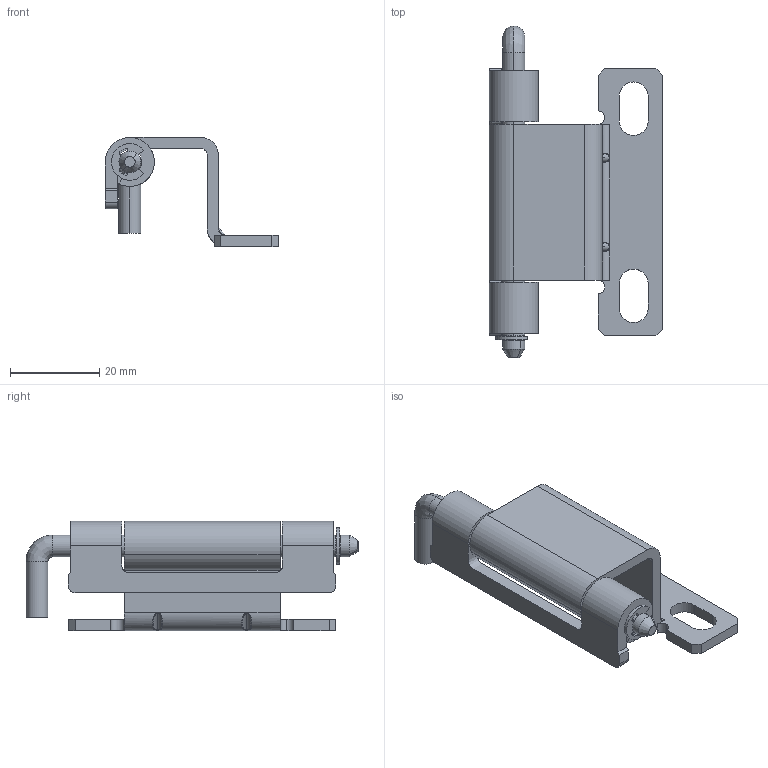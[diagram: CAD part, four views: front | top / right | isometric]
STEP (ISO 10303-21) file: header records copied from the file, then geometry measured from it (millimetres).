
FILE_DESCRIPTION(/* description */ (''),/* implementation_level */ '2;1');
FILE_NAME(/* name */ 'JL250-4',/* time_stamp */ '2025-03-20T14:28:21+08:00',/* author */ (''),/* organization */ (''),/* preprocessor_version */ 'ST-DEVELOPER v19.2',/* originating_system */ 'Rhino 8.5',/* authorisation */ '');
FILE_SCHEMA (('CONFIG_CONTROL_DESIGN'));
Length unit declared in the file: millimetre
Products named in the file (1): Document
Bounding box: 38.9 x 74.5 x 24.5 mm (x, y, z)
Volume: 11192.8 mm3; surface area: 10413.5 mm2
Topology: 4 solids, 4 shells, 119 faces, 294 edges, 188 vertices
Faces by surface type: cylinder 53, plane 45, bspline 21
Entity records: 4473 total; most frequent: CARTESIAN_POINT 2042, ORIENTED_EDGE 586, EDGE_CURVE 293, DIRECTION 292, AXIS2_PLACEMENT_3D 195, VERTEX_POINT 186, EDGE_LOOP 131, ADVANCED_FACE 119
